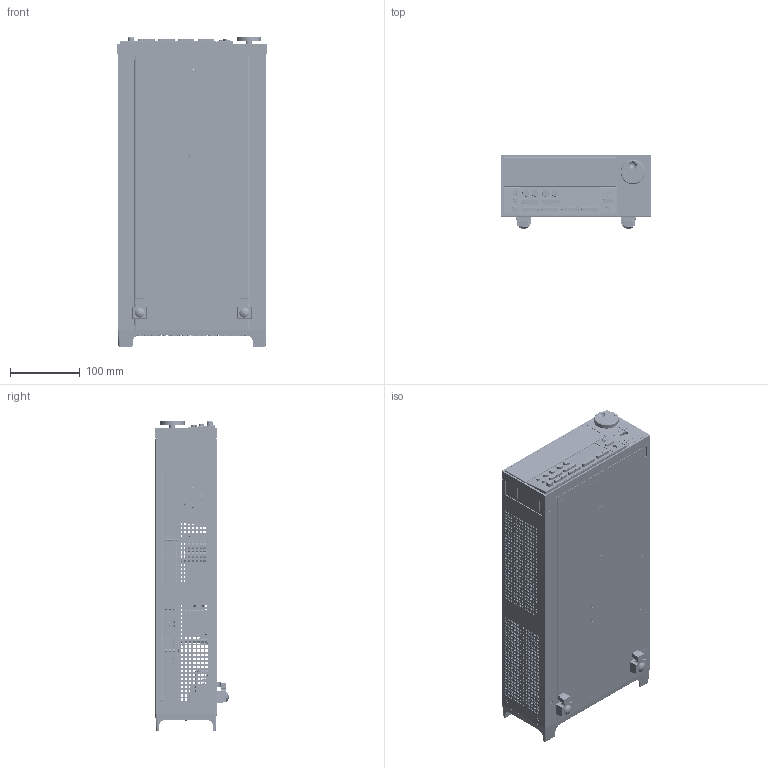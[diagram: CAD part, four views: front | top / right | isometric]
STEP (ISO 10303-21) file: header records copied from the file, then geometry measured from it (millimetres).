
FILE_DESCRIPTION((''),'2;1');
FILE_NAME('2601B_ASM','2021-01-25T12:30:21',('rrich'),(''),'CREO PARAMETRIC BY PTC INC, 2019080','CREO PARAMETRIC BY PTC INC, 2019080','');
FILE_SCHEMA(('CONFIG_CONTROL_DESIGN','SHAPE_APPEARANCE_LAYERS_GROUPS'));
Length unit declared in the file: inch
Products named in the file (107): 2602-301; 2601B-303; 2601B-304; 2601B-303_ASM; 6-32X1-4PFH; BJ-19-5; LF-11-PURCHPART; 2602-318; 4-40X1-4PFH; FN-43-WIRELESS; 4-40X1-2PPHSEM; CC-99-1-085; 1198653; ST-166-21; 3374722-SHIELD; 3374722-POLYCARB1; 3374722_ASM; 4-40X1-4PPH; 2636-142; 2636-142_ASM; CS-368-16; CS-1179-1; CS-507; CS-1150; CS-368-26; CS-368-10; CS-724-3; CS-1209; CS-288-2; CS-1032; CS-724-5; CS-889-1; CS-724-4; 2602B-140_ASM; CS-713; CA-357-2-ASSY; CS-725; CA-358-ASSY; 2602-013-BARE; CS-715-4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
Assembly tree (183 placements, depth 5):
  2601B_ASM
    2602-301
    2601B-303_ASM
      2601B-303
      2601B-304
    6-32X1-4PFH  x4
    BJ-19-5
    LF-11-PURCHPART
    2602-318
    4-40X1-4PFH  x9
    FN-43-WIRELESS
    4-40X1-2PPHSEM  x2
    CC-99-1-085  x2
    1198653
    ST-166-21  x4
    3374722_ASM
      3374722-SHIELD
      3374722-POLYCARB1  x2
    4-40X1-4PPH  x18
    2602B-140_ASM
      2636-142_ASM
        2636-142
      CS-368-16
      CS-1179-1  x2
      CS-507
      CS-1150
      CS-368-26
      CS-368-10
      CS-724-3
      CS-1209  x2
      CS-288-2
      CS-1032
      CS-724-5
      CS-889-1
      CS-724-4
    CS-713  x2
    CA-357-2-ASSY
    CS-725  x4
    CA-358-ASSY
    2602-130_ASM
      2602-013-BARE
      CS-715-4
      SW-466
      7002-323-2
    CC-67
    BA-52-NW
    2602-120_ASM
      2602-122
      CS-288-4
      CS-724-3
      CS-1197  x2
    428-319  x2
    FE-6  x2
    2601B-FRONT-PANEL_ASM
      2601A-325_ASM
        2601A-305
        2601-306
      2601-329_ASM
        2601-329
        2601-308
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Bounding box: 213.87 x 105.44 x 446.33 mm (x, y, z)
Volume: 1266812.7 mm3; surface area: 1659104.3 mm2
Topology: 204 solids, 249 shells, 26774 faces, 75034 edges, 49925 vertices
Faces by surface type: plane 22700, cylinder 3438, cone 406, torus 141, sphere 62, bspline 21, extrusion 6
Entity records: 933086 total; most frequent: CARTESIAN_POINT 140178, ORIENTED_EDGE 133662, DIRECTION 121812, EDGE_CURVE 67377, VECTOR 60310, LINE 60306, PRESENTATION_STYLE_ASSIGNMENT 49729, STYLED_ITEM 48896
